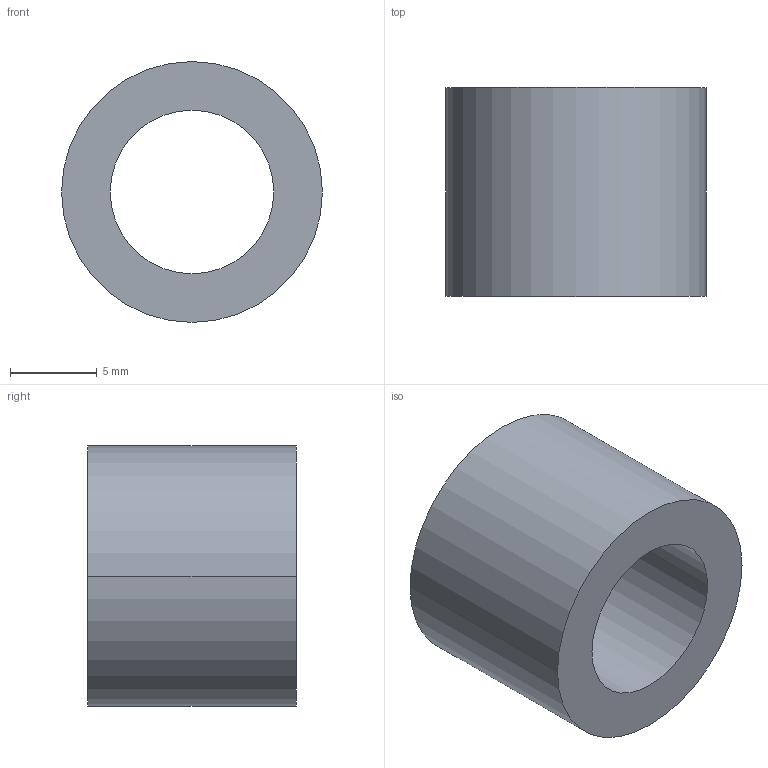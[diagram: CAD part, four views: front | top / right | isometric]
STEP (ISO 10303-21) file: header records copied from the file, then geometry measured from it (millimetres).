
FILE_DESCRIPTION (( 'STEP AP203' ), '1' );
FILE_NAME ('30800.WPP15E9.4.step', '2019-01-23T22:32:43', ( '' ), ( '' ), 'SwSTEP 2.0', 'SolidWorks 2017', '' );
FILE_SCHEMA (( 'CONFIG_CONTROL_DESIGN' ));
Length unit declared in the file: millimetre
Products named in the file (1): 30800.WPP15E9.4
Bounding box: 15 x 12 x 15 mm (x, y, z)
Volume: 1260 mm3; surface area: 1110.9 mm2
Topology: 1 solids, 1 shells, 8 faces, 16 edges, 10 vertices
Faces by surface type: cylinder 4, torus 2, plane 2
Entity records: 297 total; most frequent: DIRECTION 46, CARTESIAN_POINT 35, ORIENTED_EDGE 32, AXIS2_PLACEMENT_3D 21, EDGE_CURVE 16, CIRCLE 12, EDGE_LOOP 10, VERTEX_POINT 10
